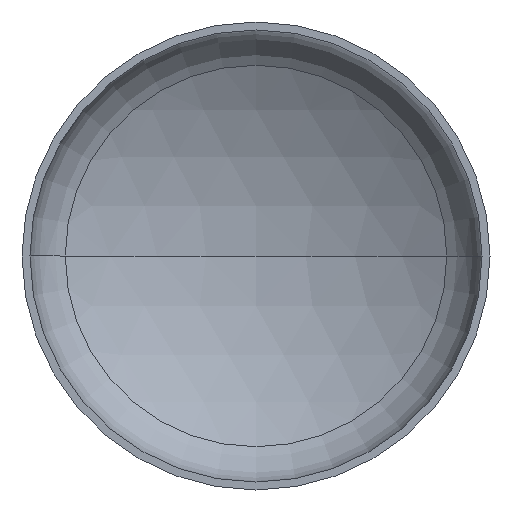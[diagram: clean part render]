
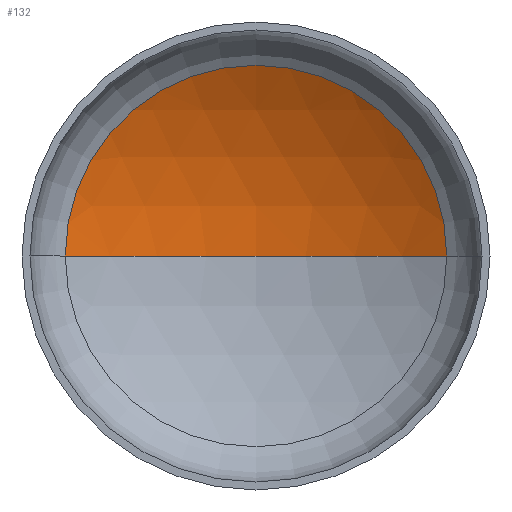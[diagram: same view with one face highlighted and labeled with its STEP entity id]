
A CAD part, front view. The second image highlights one B-rep face of the part: STEP entity #132.
In plain terms, the highlighted spherical face has radius 3200 mm.
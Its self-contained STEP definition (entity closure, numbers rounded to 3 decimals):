
#1 = CIRCLE ( 'NONE', #43, 1630.329 ) ;
#13 = DIRECTION ( 'NONE',  ( 0., -1., 0. ) ) ;
#29 = ORIENTED_EDGE ( 'NONE', *, *, #239, .T. ) ;
#33 = AXIS2_PLACEMENT_3D ( 'NONE', #367, #254, #391 ) ;
#37 = AXIS2_PLACEMENT_3D ( 'NONE', #208, #223, #161 ) ;
#43 = AXIS2_PLACEMENT_3D ( 'NONE', #145, #13, #250 ) ;
#62 = AXIS2_PLACEMENT_3D ( 'NONE', #195, #181, #183 ) ;
#75 = EDGE_LOOP ( 'NONE', ( #110, #29, #93 ) ) ;
#86 = VERTEX_POINT ( 'NONE', #366 ) ;
#93 = ORIENTED_EDGE ( 'NONE', *, *, #215, .T. ) ;
#110 = ORIENTED_EDGE ( 'NONE', *, *, #244, .F. ) ;
#132 = ADVANCED_FACE ( 'NONE', ( #274 ), #284, .F. ) ;
#137 = VERTEX_POINT ( 'NONE', #156 ) ;
#145 = CARTESIAN_POINT ( 'NONE',  ( 0., 649.198, 0. ) ) ;
#156 = CARTESIAN_POINT ( 'NONE',  ( -1630.329, 649.198, 0. ) ) ;
#161 = DIRECTION ( 'NONE',  ( -1., 0., 0. ) ) ;
#177 = CIRCLE ( 'NONE', #33, 3200. ) ;
#181 = DIRECTION ( 'NONE',  ( 0., 0., -1. ) ) ;
#183 = DIRECTION ( 'NONE',  ( -1., 0., 0. ) ) ;
#195 = CARTESIAN_POINT ( 'NONE',  ( 0., -2104.351, 0. ) ) ;
#208 = CARTESIAN_POINT ( 'NONE',  ( 0., -2104.351, 0. ) ) ;
#215 = EDGE_CURVE ( 'NONE', #86, #137, #1, .T. ) ;
#223 = DIRECTION ( 'NONE',  ( 0., 0., -1. ) ) ;
#230 = CARTESIAN_POINT ( 'NONE',  ( 0., 1095.649, 0. ) ) ;
#239 = EDGE_CURVE ( 'NONE', #361, #86, #257, .T. ) ;
#244 = EDGE_CURVE ( 'NONE', #361, #137, #177, .T. ) ;
#250 = DIRECTION ( 'NONE',  ( 1., 0., 0. ) ) ;
#254 = DIRECTION ( 'NONE',  ( 0., 0., 1. ) ) ;
#257 = CIRCLE ( 'NONE', #37, 3200. ) ;
#274 = FACE_OUTER_BOUND ( 'NONE', #75, .T. ) ;
#284 = SPHERICAL_SURFACE ( 'NONE', #62, 3200. ) ;
#361 = VERTEX_POINT ( 'NONE', #230 ) ;
#366 = CARTESIAN_POINT ( 'NONE',  ( 1630.329, 649.198, 0. ) ) ;
#367 = CARTESIAN_POINT ( 'NONE',  ( 0., -2104.351, 0. ) ) ;
#391 = DIRECTION ( 'NONE',  ( 1., 0., 0. ) ) ;
